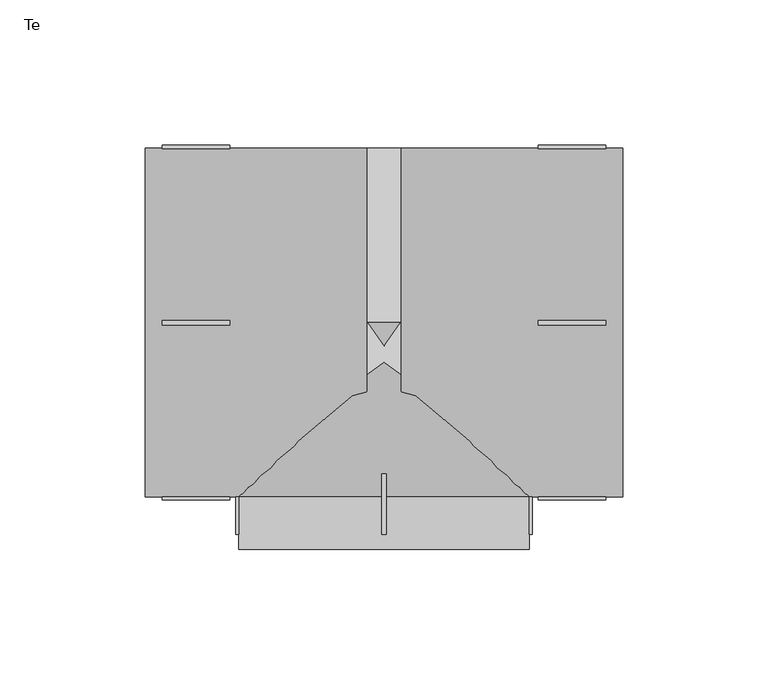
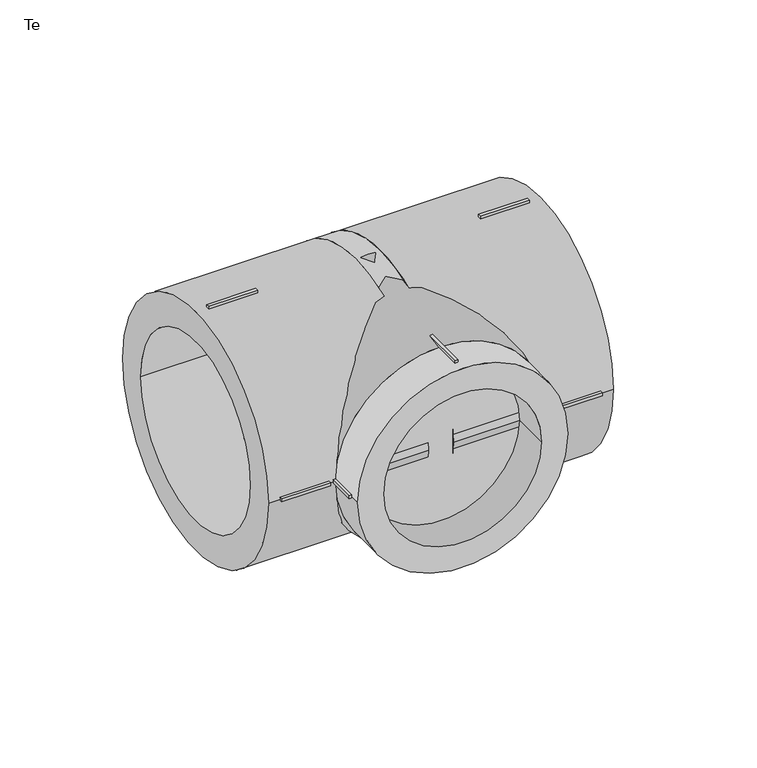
"""IFC4 building model written with IfcOpenShell, lengths in millimetres: pipe fitting geometry, EGB_VASEN_ PPR_Te WXR300_Te reducida WXR310 : Te."""

from ifc_helpers import new_model, si_unit, point, frame, origin, origin_2d, place, context, project, spatial, polyline, circle_curve, trimmed, segment, composite_curve, outline, extrude, source, transform, mapped, element, save
from ifc_brep_helpers import plane_surface, revolved_surface, advanced_brep


def te_62b782a5(model_context):
    return source(origin(), model_context, "Body", "SolidModel", [
        extrude(outline(polyline([(-0.75, -52.0), (0.75, -52.0), (0.75, -72.8), (-0.75, -72.8), (-0.75, -52.0)])), frame((0.0, 0.0, 49.0), z_axis=(0.0, 0.0, 1.0), x_axis=(1.0, 0.0, 0.0)), (0.0, 0.0, 1.0), 2.0),
        extrude(outline(polyline([(-0.75, -52.0), (0.75, -52.0), (0.75, -72.8), (-0.75, -72.8), (-0.75, -52.0)])), frame((0.0, 0.0, -51.0), z_axis=(0.0, 0.0, 1.0), x_axis=(1.0, 0.0, 0.0)), (0.0, 0.0, 1.0), 2.0),
        extrude(outline(polyline([(49.0, -52.0), (51.0, -52.0), (51.0, -72.8), (49.0, -72.8), (49.0, -52.0)])), frame((0.0, 0.0, -0.75), z_axis=(0.0, 0.0, 1.0), x_axis=(1.0, 0.0, 0.0)), (0.0, 0.0, 1.0), 1.5),
        extrude(outline(polyline([(-51.0, -52.0), (-49.0, -52.0), (-49.0, -72.8), (-51.0, -72.8), (-51.0, -52.0)])), frame((0.0, 0.0, -0.75), z_axis=(0.0, 0.0, 1.0), x_axis=(1.0, 0.0, 0.0)), (0.0, 0.0, 1.0), 1.5),
        extrude(outline(polyline([(53.0, -0.75), (53.0, 0.75), (76.2, 0.75), (76.2, -0.75), (53.0, -0.75)])), frame((0.0, 0.0, 59.0), z_axis=(0.0, 0.0, 1.0), x_axis=(1.0, 0.0, 0.0)), (0.0, 0.0, 1.0), 2.0),
        extrude(outline(polyline([(53.0, -0.75), (53.0, 0.75), (76.2, 0.75), (76.2, -0.75), (53.0, -0.75)])), frame((0.0, 0.0, -61.0), z_axis=(0.0, 0.0, 1.0), x_axis=(1.0, 0.0, 0.0)), (0.0, 0.0, 1.0), 2.0),
        extrude(outline(polyline([(53.0, 59.0), (53.0, 61.0), (76.2, 61.0), (76.2, 59.0), (53.0, 59.0)])), frame((0.0, 0.0, -0.75), z_axis=(0.0, 0.0, 1.0), x_axis=(1.0, 0.0, 0.0)), (0.0, 0.0, 1.0), 1.5),
        extrude(outline(polyline([(53.0, -61.0), (53.0, -59.0), (76.2, -59.0), (76.2, -61.0), (53.0, -61.0)])), frame((0.0, 0.0, -0.75), z_axis=(0.0, 0.0, 1.0), x_axis=(1.0, 0.0, 0.0)), (0.0, 0.0, 1.0), 1.5),
        extrude(outline(polyline([(-53.0, 0.75), (-53.0, -0.75), (-76.2, -0.75), (-76.2, 0.75), (-53.0, 0.75)])), frame((0.0, 0.0, 59.0), z_axis=(0.0, 0.0, 1.0), x_axis=(1.0, 0.0, 0.0)), (0.0, 0.0, 1.0), 2.0),
        extrude(outline(polyline([(-53.0, 0.75), (-53.0, -0.75), (-76.2, -0.75), (-76.2, 0.75), (-53.0, 0.75)])), frame((0.0, 0.0, -61.0), z_axis=(0.0, 0.0, 1.0), x_axis=(1.0, 0.0, 0.0)), (0.0, 0.0, 1.0), 2.0),
        extrude(outline(polyline([(-53.0, 61.0), (-53.0, 59.0), (-76.2, 59.0), (-76.2, 61.0), (-53.0, 61.0)])), frame((0.0, 0.0, -0.75), z_axis=(0.0, 0.0, 1.0), x_axis=(1.0, 0.0, 0.0)), (0.0, 0.0, 1.0), 1.5),
        extrude(outline(polyline([(-53.0, -59.0), (-53.0, -61.0), (-76.2, -61.0), (-76.2, -59.0), (-53.0, -59.0)])), frame((0.0, 0.0, -0.75), z_axis=(0.0, 0.0, 1.0), x_axis=(1.0, 0.0, 0.0)), (0.0, 0.0, 1.0), 1.5),
        extrude(outline(composite_curve([segment(trimmed(circle_curve(origin_2d(), 50.0), [point((0.0, 50.0))], [point((0.0, -50.0))], False, "CARTESIAN"), True, "CONTINUOUS"), segment(trimmed(circle_curve(origin_2d(), 50.0), [point((0.0, -50.0))], [point((0.0, 50.0))], False, "CARTESIAN"), True, "CONTINUOUS")], self_intersect=False), holes=[composite_curve([segment(trimmed(circle_curve(origin_2d(), 37.5), [point((0.0, 37.5))], [point((0.0, -37.5))], True, "CARTESIAN"), True, "CONTINUOUS"), segment(trimmed(circle_curve(origin_2d(), 37.5), [point((0.0, -37.5))], [point((0.0, 37.5))], True, "CARTESIAN"), True, "CONTINUOUS")], self_intersect=False)]), frame((0.0, -78.0, 0.0), z_axis=(0.0, 1.0, 0.0), x_axis=(0.0, 0.0, 1.0)), (0.0, 0.0, 1.0), 18.0),
        extrude(outline(composite_curve([segment(trimmed(circle_curve(origin_2d(), 60.0), [point((-60.0, 0.0))], [point((60.0, 0.0))], False, "CARTESIAN"), True, "CONTINUOUS"), segment(trimmed(circle_curve(origin_2d(), 60.0), [point((60.0, 0.0))], [point((-60.0, 0.0))], False, "CARTESIAN"), True, "CONTINUOUS")], self_intersect=False), holes=[composite_curve([segment(trimmed(circle_curve(origin_2d(), 45.0), [point((-45.0, 0.0))], [point((45.0, 0.0))], True, "CARTESIAN"), True, "CONTINUOUS"), segment(trimmed(circle_curve(origin_2d(), 45.0), [point((45.0, 0.0))], [point((-45.0, 0.0))], True, "CARTESIAN"), True, "CONTINUOUS")], self_intersect=False)]), frame((5.96, 0.0, 0.0), z_axis=(1.0, 0.0, 0.0), x_axis=(0.0, 1.0, 0.0)), (0.0, 0.0, 1.0), 76.04),
        extrude(outline(composite_curve([segment(trimmed(circle_curve(origin_2d(), 60.0), [point((-60.0, 0.0))], [point((60.0, 0.0))], False, "CARTESIAN"), True, "CONTINUOUS"), segment(trimmed(circle_curve(origin_2d(), 60.0), [point((60.0, 0.0))], [point((-60.0, 0.0))], False, "CARTESIAN"), True, "CONTINUOUS")], self_intersect=False), holes=[composite_curve([segment(trimmed(circle_curve(origin_2d(), 45.0), [point((-45.0, 0.0))], [point((45.0, 0.0))], True, "CARTESIAN"), True, "CONTINUOUS"), segment(trimmed(circle_curve(origin_2d(), 45.0), [point((45.0, 0.0))], [point((-45.0, 0.0))], True, "CARTESIAN"), True, "CONTINUOUS")], self_intersect=False)]), frame((-82.0, 0.0, 0.0), z_axis=(1.0, 0.0, 0.0), x_axis=(0.0, 1.0, 0.0)), (0.0, 0.0, 1.0), 76.04),
        advanced_brep(
        [(60.0, 0.0, 0.0), (-60.0, 0.0, 0.0), (50.0, -60.0, 0.0), (-50.0, -60.0, 0.0)],
        [
            (0, 1, circle_curve(frame((0.0, 0.0, 0.0), z_axis=(0.0, 1.0, 0.0), x_axis=(1.0, 0.0, 0.0)), 60.0)),
            (1, 0, circle_curve(frame((0.0, 0.0, 0.0), z_axis=(0.0, 1.0, 0.0), x_axis=(-1.0, 0.0, 0.0)), 60.0)),
            (2, 3, circle_curve(frame((0.0, -60.0, 0.0), z_axis=(0.0, -1.0, 0.0), x_axis=(-1.0, 0.0, 0.0)), 50.0)),
            (3, 2, circle_curve(frame((0.0, -60.0, 0.0), z_axis=(0.0, -1.0, 0.0), x_axis=(1.0, 0.0, 0.0)), 50.0)),
            (3, 1),
            (0, 2),
        ],
        [
            plane_surface(frame((0.0, 0.0, 0.0), z_axis=(0.0, 1.0, 0.0), x_axis=(0.0, 0.0, -1.0))),
            plane_surface(frame((0.0, -60.0, 0.0), z_axis=(0.0, -1.0, 0.0), x_axis=(0.0, 0.0, -1.0))),
            revolved_surface(polyline([(-50.0, -60.0, 0.0), (-60.0, 0.0, 0.0)]), (0.0, -360.0, 0.0), (0.0, 1.0, 0.0)),
            revolved_surface(polyline([(50.0, -60.0, 0.0), (60.0, 0.0, 0.0)]), (0.0, -360.0, 0.0), (0.0, 1.0, 0.0)),
        ],
        [
            (0, [[1, 2]]),
            (1, [[3, 4]]),
            (2, [[-4, 5, -1, 6]]),
            (3, [[-3, -6, -2, -5]]),
        ],
    ),
        extrude(outline(composite_curve([segment(trimmed(circle_curve(origin_2d(), 60.0), [point((-60.0, 0.0))], [point((60.0, 0.0))], False, "CARTESIAN"), True, "CONTINUOUS"), segment(trimmed(circle_curve(origin_2d(), 60.0), [point((60.0, 0.0))], [point((-60.0, 0.0))], False, "CARTESIAN"), True, "CONTINUOUS")], self_intersect=False)), frame((-5.96, 0.0, 0.0), z_axis=(1.0, 0.0, 0.0), x_axis=(0.0, 1.0, 0.0)), (0.0, 0.0, 1.0), 11.92),
    ])


if __name__ == "__main__":
    model = new_model("IFC4")
    model_context = context("Model", 3, world=origin())
    ifc_project = project(units=[si_unit("LENGTHUNIT", "METRE", prefix="MILLI")], contexts=[model_context])
    site = spatial("IfcSite", under=ifc_project)
    building = spatial("IfcBuilding", under=site)
    placement = place(None, origin())
    te_shape = te_62b782a5(model_context)
    element("IfcPipeFitting", 1, ObjectType="EGB_VASEN_ PPR_Te WXR300_Te reducida WXR310 : Te", at=placement, inside=building, context=model_context, shape_type="MappedRepresentation", body=[
        mapped(te_shape, transform((0.0, 0.0, 0.0), x_axis=(1.0, 0.0, 0.0), y_axis=(0.0, 1.0, 0.0), z_axis=(0.0, 0.0, 1.0))),
    ])
    save(model, "model.ifc")
